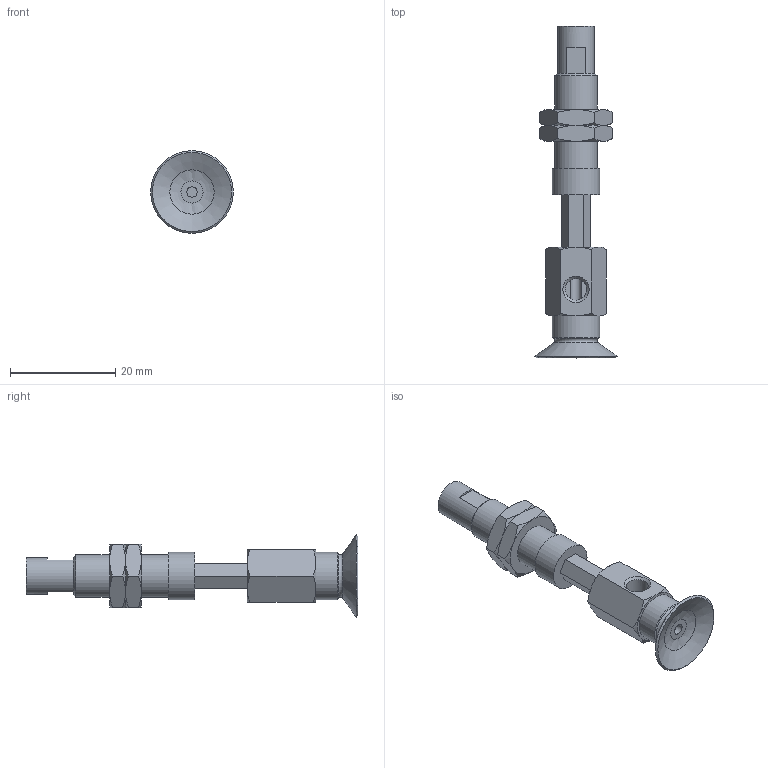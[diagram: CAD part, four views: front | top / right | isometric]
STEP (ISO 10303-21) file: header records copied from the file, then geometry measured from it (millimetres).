
FILE_DESCRIPTION(('STEP AP203'),'1');
FILE_NAME('.stp','2025-04-10T07:32:02',(' '),(' '),'Spatial InterOp 3D',' ',' ');
FILE_SCHEMA(('CONFIG_CONTROL_DESIGN'));
Length unit declared in the file: millimetre
Products named in the file (6): BNABPFYH-15A-10-※; CONNECTOR-H-15A-10; Nut-15A-10-h; NAPFTH-15A-10-FBODY; NAPFTH-15A-10-MBODY; BPFG-15A-※
Assembly tree (6 placements, depth 2):
  BNABPFYH-15A-10-※
    CONNECTOR-H-15A-10
    Nut-15A-10-h  x2
    NAPFTH-15A-10-FBODY
    NAPFTH-15A-10-MBODY
    BPFG-15A-※
Bounding box: 15.7 x 63 x 15.7 mm (x, y, z)
Volume: 3613.9 mm3; surface area: 4441.5 mm2
Topology: 6 solids, 6 shells, 139 faces, 300 edges, 182 vertices
Faces by surface type: plane 63, cone 51, cylinder 15, torus 9, bspline 1
Full cylindrical faces by diameter (mm): 2 x2, 4 x2, 4.134 x2, 5 x1, 6 x2, 7 x1, 7.188 x2, 8 x1, 9 x2
Entity records: 3467 total; most frequent: CARTESIAN_POINT 854, DIRECTION 478, ORIENTED_EDGE 418, EDGE_CURVE 209, AXIS2_PLACEMENT_3D 201, EDGE_LOOP 170, VERTEX_POINT 147, FACE_OUTER_BOUND 140
